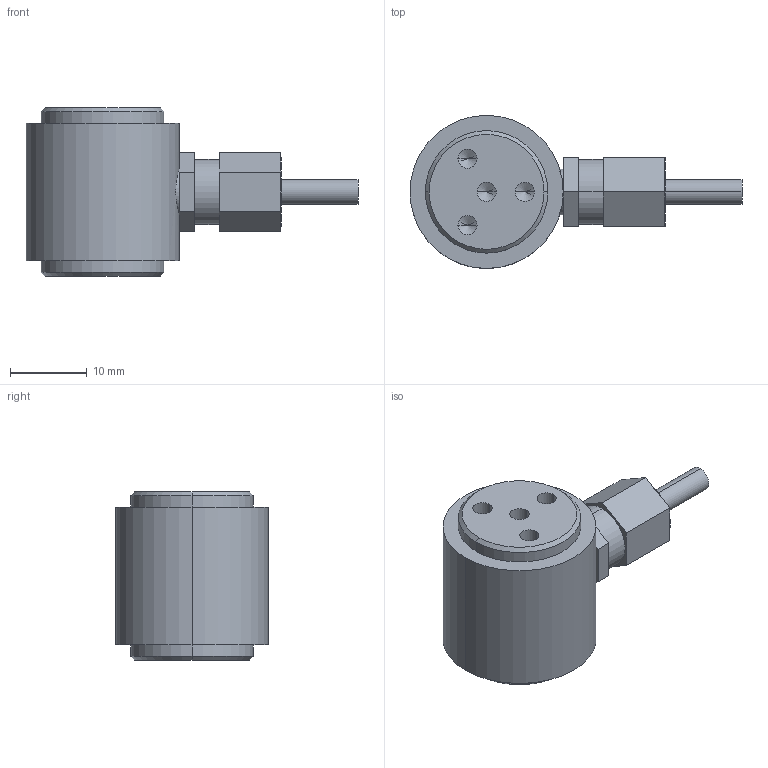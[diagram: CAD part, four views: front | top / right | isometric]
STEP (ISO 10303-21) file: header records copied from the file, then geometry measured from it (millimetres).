
FILE_DESCRIPTION (( 'STEP AP214' ), '1' );
FILE_NAME ('WTP209-513DDA蚾饜极俋倛芞.STEP', '2023-06-21T04:26:08', ( '' ), ( '' ), 'SwSTEP 2.0', 'SolidWorks 2014', '' );
FILE_SCHEMA (( 'AUTOMOTIVE_DESIGN' ));
Length unit declared in the file: millimetre
Products named in the file (3): M12X1.5踡盄蹟譫; WTP209-513DDA粟俶釱; WTP209-513DDA蚾饜极俋倛芞
Assembly tree (2 placements, depth 2):
  WTP209-513DDA蚾饜极俋倛芞
    WTP209-513DDA粟俶釱
    M12X1.5踡盄蹟譫
Bounding box: 43.35 x 20 x 22 mm (x, y, z)
Volume: 7289.4 mm3; surface area: 3130.1 mm2
Topology: 2 solids, 2 shells, 81 faces, 185 edges, 106 vertices
Faces by surface type: cylinder 32, plane 29, cone 20
Entity records: 2554 total; most frequent: CARTESIAN_POINT 423, DIRECTION 411, ORIENTED_EDGE 338, EDGE_CURVE 169, AXIS2_PLACEMENT_3D 158, VERTEX_POINT 106, EDGE_LOOP 95, VECTOR 95
